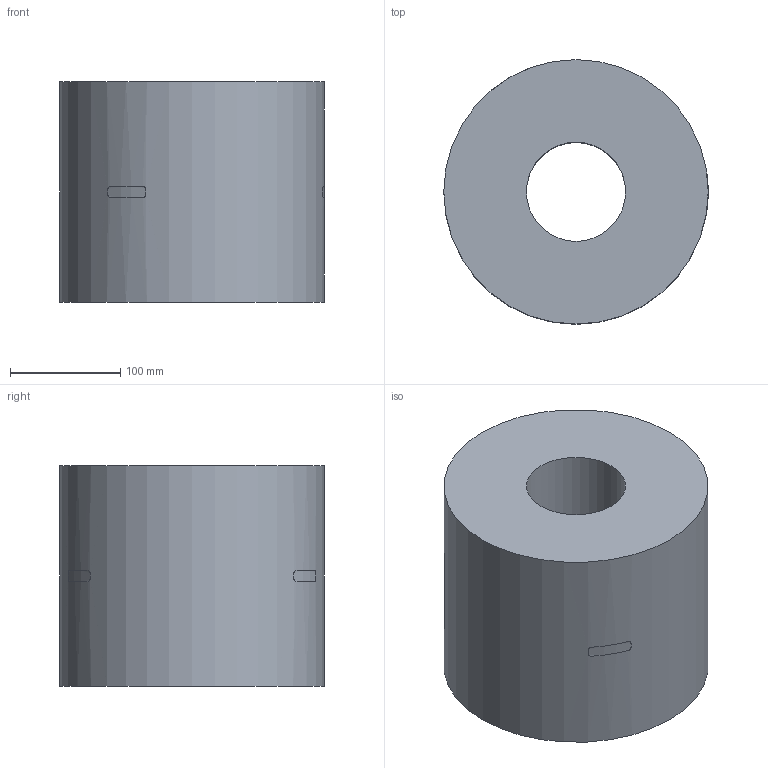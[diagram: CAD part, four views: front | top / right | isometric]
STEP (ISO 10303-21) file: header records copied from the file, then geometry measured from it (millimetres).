
FILE_DESCRIPTION(('FreeCAD Model'),'2;1');
FILE_NAME('Open CASCADE Shape Model','2025-01-08T23:03:13',('Author'),( ''),'Open CASCADE STEP processor 7.6','FreeCAD','Unknown');
FILE_SCHEMA(('AUTOMOTIVE_DESIGN { 1 0 10303 214 1 1 1 1 }'));
Length unit declared in the file: millimetre
Products named in the file (3): Unnamed; Cut001; Cut002
Assembly tree (2 placements, depth 2):
  Unnamed
    Cut001
    Cut002
Bounding box: 240 x 240 x 200 mm (x, y, z)
Volume: 7775443.3 mm3; surface area: 359687.2 mm2
Topology: 2 solids, 2 shells, 64 faces, 174 edges, 116 vertices
Faces by surface type: cylinder 34, plane 30
Full cylindrical faces by diameter (mm): 90 x3, 120 x2, 240 x1
Entity records: 6446 total; most frequent: CARTESIAN_POINT 3273, DIRECTION 472, ORIENTED_EDGE 348, PCURVE 348, DEFINITIONAL_REPRESENTATION 348, LINE 242, VECTOR 242, B_SPLINE_CURVE_WITH_KNOTS 192
